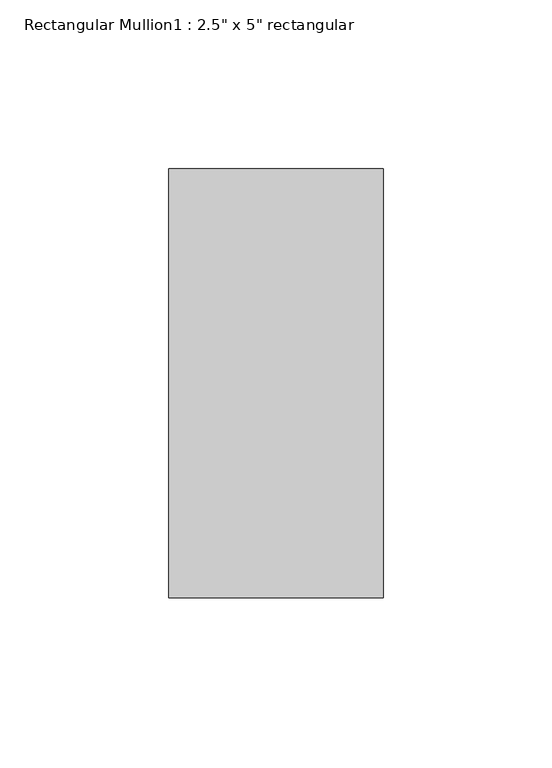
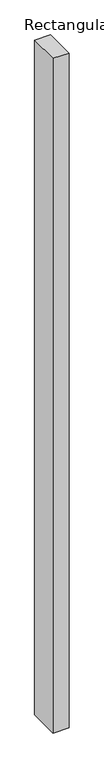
"""IFC4 building model written with IfcOpenShell, lengths in millimetres: member geometry."""

from ifc_helpers import new_model, si_unit, frame, origin, place, context, project, spatial, polyline, outline, extrude, source, transform, mapped, element, save


def member_d1cb1681(model_context):
    return source(origin(), model_context, "Body", "SweptSolid", [
        extrude(outline(polyline([(31.75, 63.5), (31.75, -63.5), (-31.75, -63.5), (-31.75, 63.5), (31.75, 63.5)])), frame((0.0, 0.0, -2852.42), z_axis=(0.0, 0.0, 1.0), x_axis=(1.0, 0.0, 0.0)), (0.0, 0.0, 1.0), 2852.42),
    ])


if __name__ == "__main__":
    model = new_model("IFC4")
    model_context = context("Model", 3, world=origin())
    ifc_project = project(units=[si_unit("LENGTHUNIT", "METRE", prefix="MILLI")], contexts=[model_context])
    site = spatial("IfcSite", under=ifc_project)
    building = spatial("IfcBuilding", under=site)
    placement = place(None, origin())
    member_shape = member_d1cb1681(model_context)
    element("IfcMember", 1, ObjectType="Rectangular Mullion1 : 2.5\" x 5\" rectangular", at=placement, inside=building, context=model_context, shape_type="MappedRepresentation", body=[
        mapped(member_shape, transform((0.0, 0.0, 0.0), x_axis=(1.0, 0.0, 0.0), y_axis=(0.0, 1.0, 0.0), z_axis=(0.0, 0.0, 1.0))),
    ])
    save(model, "model.ifc")
